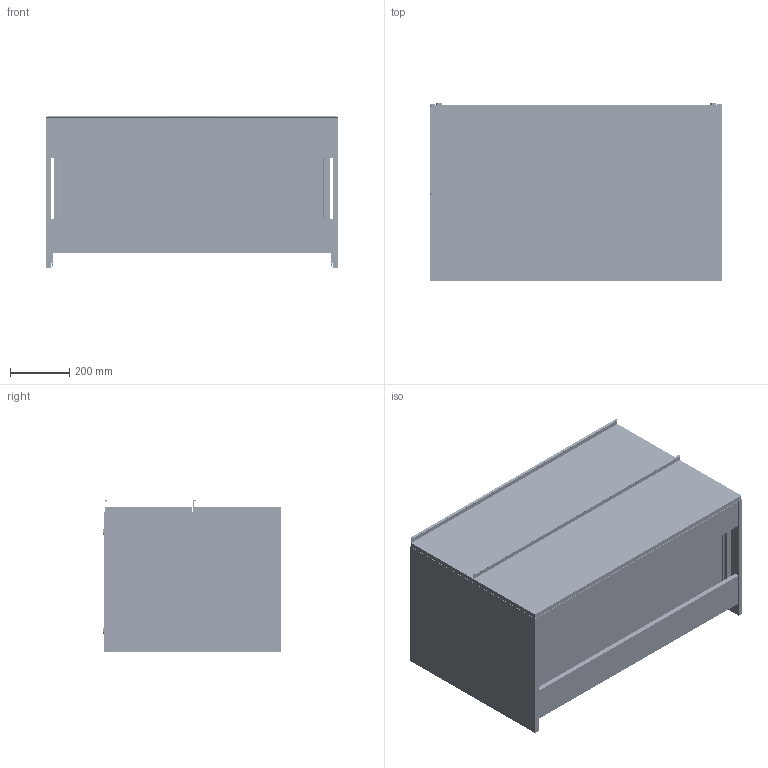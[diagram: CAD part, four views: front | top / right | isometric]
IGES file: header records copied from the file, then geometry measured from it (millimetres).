
Start section: SolidWorks IGES file using analytic representation for surfaces
Global section: file name: \\PDM-SQL\Technolodzy\WYROBY\_Nowa dokumentacja\SZAFKA VIGOUR 100 2S - 167937, 167938, 167939\SZAFKA 100 2S.IGS; native system: SolidWorks 2012; preprocessor: SolidWorks 2012; author: rkopecki; date: 200625.130822; units: millimetre
Bounding box: 990 x 604.5 x 512.55 mm (x, y, z)
Surface area: 6716206.3 mm2 (no closed solid volume)
Topology: 0 solids, 4 shells, 1986 faces, 23822 edges, 23517 vertices
Faces by surface type: bspline 1024, revolution 962
